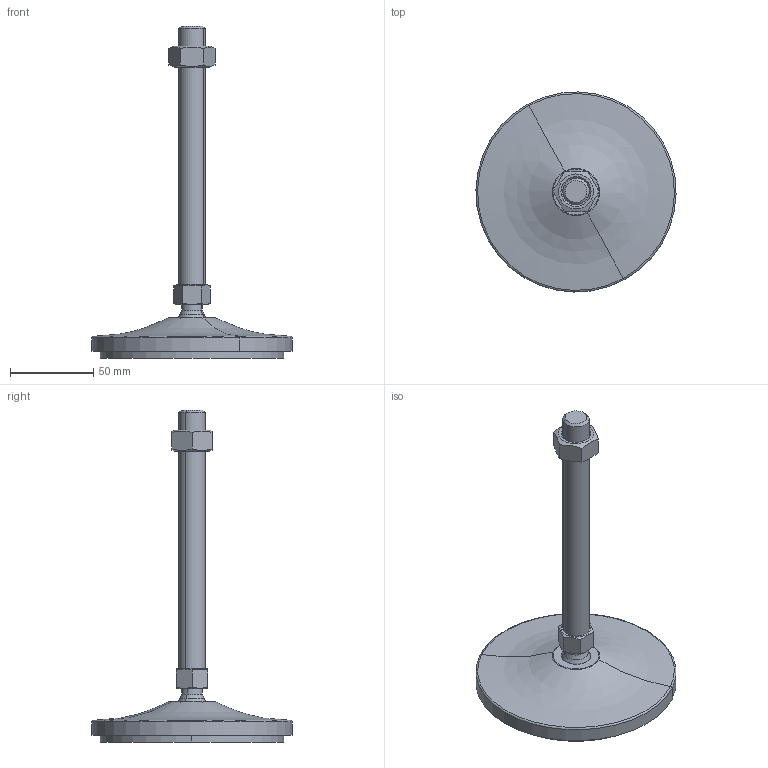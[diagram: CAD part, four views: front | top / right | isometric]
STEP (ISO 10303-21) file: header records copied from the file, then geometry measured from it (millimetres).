
FILE_DESCRIPTION(('CATIA V5 STEP Exchange'),'2;1');
FILE_NAME('C:\Users\ALI OZGUN\Desktop\alhan\saplama2\560121621AV.stp','2017-09-21T10:31:37+00:00',('none'),('none'),'CATIA Version 5 Release 21 GA (IN-10)','CATIA V5 STEP AP203','none');
FILE_SCHEMA(('CONFIG_CONTROL_DESIGN'));
Length unit declared in the file: millimetre
Products named in the file (1): 560121621AV
Bounding box: 119.97 x 119.97 x 199 mm (x, y, z)
Volume: 211833.8 mm3; surface area: 62486.8 mm2
Topology: 4 solids, 4 shells, 64 faces, 142 edges, 87 vertices
Faces by surface type: plane 22, cylinder 16, cone 16, torus 4, revolution 4, sphere 2
Entity records: 1936 total; most frequent: CARTESIAN_POINT 628, ORIENTED_EDGE 280, DIRECTION 197, EDGE_CURVE 140, AXIS2_PLACEMENT_3D 106, VERTEX_POINT 87, EDGE_LOOP 71, ADVANCED_FACE 64
